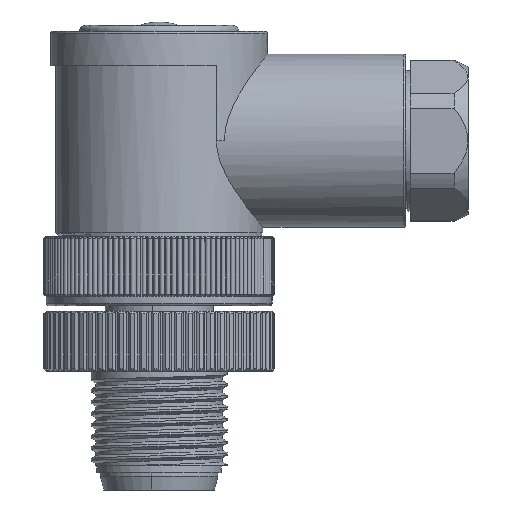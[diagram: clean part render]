
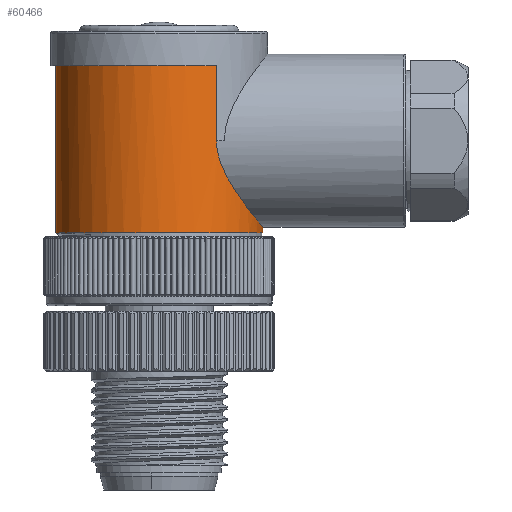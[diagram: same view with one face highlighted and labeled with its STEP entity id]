
A CAD part, front view. The second image highlights one B-rep face of the part: STEP entity #60466.
In plain terms, the highlighted cylindrical face has radius 9 mm (diameter 18 mm), a partial arc.
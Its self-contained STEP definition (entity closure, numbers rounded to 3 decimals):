
#20316=CARTESIAN_POINT('',(0.,0.,4.5));
#20317=DIRECTION('',(0.,0.,-1.));
#20318=DIRECTION('',(1.,0.,0.));
#20319=AXIS2_PLACEMENT_3D('',#20316,#20317,#20318);
#20335=DIRECTION('',(0.,0.,-1.));
#20336=VECTOR('',#20335,0.5);
#20337=CARTESIAN_POINT('',(9.,0.,5.));
#20338=LINE('',#20337,#20336);
#20339=DIRECTION('',(0.,0.,-1.));
#20340=VECTOR('',#20339,14.5);
#20341=CARTESIAN_POINT('',(-9.,0.,19.));
#20342=LINE('',#20341,#20340);
#20343=DIRECTION('',(0.,0.,1.));
#20344=VECTOR('',#20343,6.475);
#20345=CARTESIAN_POINT('',(4.975,-7.5,
12.525));
#20346=LINE('',#20345,#20344);
#20438=CARTESIAN_POINT('',(9.,0.,5.));
#20439=CARTESIAN_POINT('',(9.,-0.048,
5.));
#20440=CARTESIAN_POINT('',(8.999,-0.144,
5.001));
#20441=CARTESIAN_POINT('',(8.996,-0.289,
5.005));
#20442=CARTESIAN_POINT('',(8.99,-0.433,
5.012));
#20443=CARTESIAN_POINT('',(8.982,-0.578,
5.022));
#20444=CARTESIAN_POINT('',(8.971,-0.722,
5.034));
#20445=CARTESIAN_POINT('',(8.959,-0.866,
5.05));
#20446=CARTESIAN_POINT('',(8.943,-1.011,
5.068));
#20447=CARTESIAN_POINT('',(8.926,-1.155,
5.089));
#20448=CARTESIAN_POINT('',(8.906,-1.3,
5.113));
#20449=CARTESIAN_POINT('',(8.884,-1.445,
5.14));
#20450=CARTESIAN_POINT('',(8.859,-1.589,
5.17));
#20451=CARTESIAN_POINT('',(8.832,-1.734,
5.203));
#20452=CARTESIAN_POINT('',(8.802,-1.879,
5.239));
#20453=CARTESIAN_POINT('',(8.77,-2.024,
5.278));
#20454=CARTESIAN_POINT('',(8.735,-2.168,
5.32));
#20455=CARTESIAN_POINT('',(8.698,-2.313,
5.365));
#20456=CARTESIAN_POINT('',(8.658,-2.458,
5.414));
#20457=CARTESIAN_POINT('',(8.616,-2.603,
5.466));
#20458=CARTESIAN_POINT('',(8.571,-2.747,
5.521));
#20459=CARTESIAN_POINT('',(8.523,-2.892,
5.579));
#20460=CARTESIAN_POINT('',(8.473,-3.036,
5.641));
#20461=CARTESIAN_POINT('',(8.42,-3.181,
5.707));
#20462=CARTESIAN_POINT('',(8.364,-3.324,
5.776));
#20463=CARTESIAN_POINT('',(8.305,-3.468,
5.849));
#20464=CARTESIAN_POINT('',(8.244,-3.611,
5.926));
#20465=CARTESIAN_POINT('',(8.18,-3.754,
6.007));
#20466=CARTESIAN_POINT('',(8.113,-3.897,
6.091));
#20467=CARTESIAN_POINT('',(8.044,-4.038,
6.179));
#20468=CARTESIAN_POINT('',(7.971,-4.18,
6.272));
#20469=CARTESIAN_POINT('',(7.896,-4.32,
6.368));
#20470=CARTESIAN_POINT('',(7.818,-4.459,
6.469));
#20471=CARTESIAN_POINT('',(7.738,-4.598,
6.574));
#20472=CARTESIAN_POINT('',(7.654,-4.735,
6.683));
#20473=CARTESIAN_POINT('',(7.569,-4.871,
6.796));
#20474=CARTESIAN_POINT('',(7.481,-5.005,
6.913));
#20475=CARTESIAN_POINT('',(7.39,-5.138,
7.035));
#20476=CARTESIAN_POINT('',(7.298,-5.268,
7.161));
#20477=CARTESIAN_POINT('',(7.203,-5.397,
7.291));
#20478=CARTESIAN_POINT('',(7.106,-5.523,
7.425));
#20479=CARTESIAN_POINT('',(7.009,-5.647,
7.563));
#20480=CARTESIAN_POINT('',(6.909,-5.768,
7.705));
#20481=CARTESIAN_POINT('',(6.809,-5.885,
7.85));
#20482=CARTESIAN_POINT('',(6.709,-6.,
7.998));
#20483=CARTESIAN_POINT('',(6.608,-6.11,
8.15));
#20484=CARTESIAN_POINT('',(6.508,-6.217,
8.303));
#20485=CARTESIAN_POINT('',(6.409,-6.319,
8.459));
#20486=CARTESIAN_POINT('',(6.311,-6.417,
8.616));
#20487=CARTESIAN_POINT('',(6.215,-6.51,
8.775));
#20488=CARTESIAN_POINT('',(6.121,-6.598,
8.933));
#20489=CARTESIAN_POINT('',(6.03,-6.681,
9.091));
#20490=CARTESIAN_POINT('',(5.942,-6.76,
9.249));
#20491=CARTESIAN_POINT('',(5.858,-6.832,
9.405));
#20492=CARTESIAN_POINT('',(5.778,-6.9,
9.56));
#20493=CARTESIAN_POINT('',(5.702,-6.963,
9.713));
#20494=CARTESIAN_POINT('',(5.63,-7.022,
9.863));
#20495=CARTESIAN_POINT('',(5.562,-7.075,
10.011));
#20496=CARTESIAN_POINT('',(5.499,-7.125,
10.156));
#20497=CARTESIAN_POINT('',(5.44,-7.17,
10.298));
#20498=CARTESIAN_POINT('',(5.385,-7.211,
10.437));
#20499=CARTESIAN_POINT('',(5.334,-7.249,
10.574));
#20500=CARTESIAN_POINT('',(5.287,-7.283,
10.708));
#20501=CARTESIAN_POINT('',(5.244,-7.314,
10.84));
#20502=CARTESIAN_POINT('',(5.205,-7.342,
10.969));
#20503=CARTESIAN_POINT('',(5.169,-7.368,
11.095));
#20504=CARTESIAN_POINT('',(5.137,-7.39,
11.22));
#20505=CARTESIAN_POINT('',(5.107,-7.41,
11.343));
#20506=CARTESIAN_POINT('',(5.081,-7.428,
11.463));
#20507=CARTESIAN_POINT('',(5.058,-7.444,
11.583));
#20508=CARTESIAN_POINT('',(5.038,-7.458,
11.7));
#20509=CARTESIAN_POINT('',(5.021,-7.469,
11.817));
#20510=CARTESIAN_POINT('',(5.007,-7.479,
11.932));
#20511=CARTESIAN_POINT('',(4.995,-7.487,
12.047));
#20512=CARTESIAN_POINT('',(4.986,-7.493,
12.161));
#20513=CARTESIAN_POINT('',(4.98,-7.497,
12.274));
#20514=CARTESIAN_POINT('',(4.976,-7.499,
12.387));
#20515=CARTESIAN_POINT('',(4.975,-7.5,
12.462));
#20516=CARTESIAN_POINT('',(4.975,-7.5,
12.5));
#20527=CARTESIAN_POINT('',(4.975,-7.5,
12.5));
#20528=CARTESIAN_POINT('',(4.975,-7.5,
12.504));
#20529=CARTESIAN_POINT('',(4.975,-7.5,
12.512));
#20530=CARTESIAN_POINT('',(4.975,-7.5,
12.521));
#20531=CARTESIAN_POINT('',(4.975,-7.5,
12.525));
#20556=CARTESIAN_POINT('',(0.,0.,19.));
#20557=DIRECTION('',(0.,0.,1.));
#20558=DIRECTION('',(-1.,0.,0.));
#20559=AXIS2_PLACEMENT_3D('',#20556,#20557,#20558);
#44617=CARTESIAN_POINT('',(4.975,-7.5,19.));
#44619=VERTEX_POINT('',#44617);
#44630=CARTESIAN_POINT('',(4.975,-7.5,
12.5));
#44632=VERTEX_POINT('',#44630);
#44895=CARTESIAN_POINT('',(9.,0.,5.));
#44897=VERTEX_POINT('',#44895);
#44902=CARTESIAN_POINT('',(-9.,0.,19.));
#44903=CARTESIAN_POINT('',(-9.,0.,4.5));
#44904=VERTEX_POINT('',#44902);
#44905=VERTEX_POINT('',#44903);
#44906=CARTESIAN_POINT('',(9.,0.,4.5));
#44907=VERTEX_POINT('',#44906);
#44910=CARTESIAN_POINT('',(4.975,-7.5,
12.525));
#44911=VERTEX_POINT('',#44910);
#60446=CARTESIAN_POINT('',(0.,0.,22.));
#60447=DIRECTION('',(0.,0.,-1.));
#60448=DIRECTION('',(-1.,0.,0.));
#60449=AXIS2_PLACEMENT_3D('',#60446,#60447,#60448);
#60450=CYLINDRICAL_SURFACE('',#60449,9.);
#60452=ORIENTED_EDGE('',*,*,#60451,.F.);
#60454=ORIENTED_EDGE('',*,*,#60453,.T.);
#60455=ORIENTED_EDGE('',*,*,#60431,.T.);
#60457=ORIENTED_EDGE('',*,*,#60456,.F.);
#60459=ORIENTED_EDGE('',*,*,#60458,.T.);
#60461=ORIENTED_EDGE('',*,*,#60460,.F.);
#60463=ORIENTED_EDGE('',*,*,#60462,.F.);
#60464=EDGE_LOOP('',(#60452,#60454,#60455,#60457,#60459,#60461,#60463));
#60465=FACE_OUTER_BOUND('',#60464,.F.);
#60466=ADVANCED_FACE('',(#60465),#60450,.T.);
#20320=CIRCLE('',#20319,9.);
#20517=B_SPLINE_CURVE_WITH_KNOTS('',3,(#20438,#20439,#20440,#20441,#20442,
#20443,#20444,#20445,#20446,#20447,#20448,#20449,#20450,#20451,#20452,#20453,
#20454,#20455,#20456,#20457,#20458,#20459,#20460,#20461,#20462,#20463,#20464,
#20465,#20466,#20467,#20468,#20469,#20470,#20471,#20472,#20473,#20474,#20475,
#20476,#20477,#20478,#20479,#20480,#20481,#20482,#20483,#20484,#20485,#20486,
#20487,#20488,#20489,#20490,#20491,#20492,#20493,#20494,#20495,#20496,#20497,
#20498,#20499,#20500,#20501,#20502,#20503,#20504,#20505,#20506,#20507,#20508,
#20509,#20510,#20511,#20512,#20513,#20514,#20515,#20516),.UNSPECIFIED.,.F.,.F.,(
4,1,1,1,1,1,1,1,1,1,1,1,1,1,1,1,1,1,1,1,1,1,1,1,1,1,1,1,1,1,1,1,1,1,1,1,1,1,1,1,
1,1,1,1,1,1,1,1,1,1,1,1,1,1,1,1,1,1,1,1,1,1,1,1,1,1,1,1,1,1,1,1,1,1,1,1,4),
(0.,0.013,0.026,0.039,0.053,
0.066,0.079,0.092,0.105,
0.118,0.132,0.145,0.158,
0.171,0.184,0.197,0.211,
0.224,0.237,0.25,0.263,0.276,
0.289,0.303,0.316,0.329,
0.342,0.355,0.368,0.382,
0.395,0.408,0.421,0.434,
0.447,0.461,0.474,0.487,0.5,
0.513,0.526,0.539,0.553,
0.566,0.579,0.592,0.605,
0.618,0.632,0.645,0.658,
0.671,0.684,0.697,0.711,
0.724,0.737,0.75,0.763,0.776,
0.789,0.803,0.816,0.829,
0.842,0.855,0.868,0.882,
0.895,0.908,0.921,0.934,
0.947,0.961,0.974,0.987,1.),
.UNSPECIFIED.);
#20532=B_SPLINE_CURVE_WITH_KNOTS('',3,(#20527,#20528,#20529,#20530,#20531),
.UNSPECIFIED.,.F.,.F.,(4,1,4),(0.,0.5,1.),.UNSPECIFIED.);
#20560=CIRCLE('',#20559,9.);
#60431=EDGE_CURVE('',#44907,#44905,#20320,.T.);
#60451=EDGE_CURVE('',#44897,#44632,#20517,.T.);
#60453=EDGE_CURVE('',#44897,#44907,#20338,.T.);
#60456=EDGE_CURVE('',#44904,#44905,#20342,.T.);
#60458=EDGE_CURVE('',#44904,#44619,#20560,.T.);
#60460=EDGE_CURVE('',#44911,#44619,#20346,.T.);
#60462=EDGE_CURVE('',#44632,#44911,#20532,.T.);
